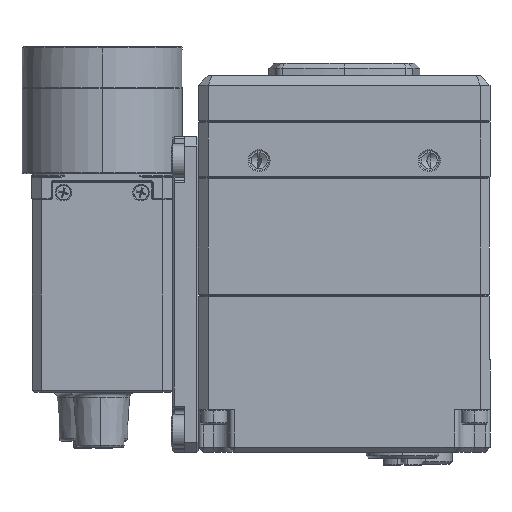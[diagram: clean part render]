
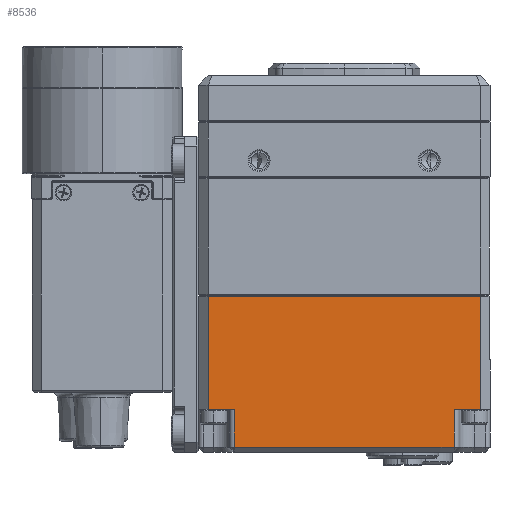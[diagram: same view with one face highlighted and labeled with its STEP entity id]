
A CAD part, left-side view. The second image highlights one B-rep face of the part: STEP entity #8536.
In plain terms, the highlighted planar face has unit normal (-1, 0, 0).
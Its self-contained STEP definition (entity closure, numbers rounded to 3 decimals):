
#163 = EDGE_CURVE ( 'NONE', #30377, #46560, #26223, .T. ) ;
#1780 = DIRECTION ( 'NONE',  ( 1., 0., 0. ) ) ;
#1967 = CARTESIAN_POINT ( 'NONE',  ( -30., -30., 32.1 ) ) ;
#3139 = ORIENTED_EDGE ( 'NONE', *, *, #163, .T. ) ;
#3210 = AXIS2_PLACEMENT_3D ( 'NONE', #57737, #1780, #47347 ) ;
#4185 = CARTESIAN_POINT ( 'NONE',  ( -30., 22.6, 32.3 ) ) ;
#4766 = VECTOR ( 'NONE', #37313, 1000. ) ;
#5443 = VECTOR ( 'NONE', #31259, 1000. ) ;
#7189 = ORIENTED_EDGE ( 'NONE', *, *, #21064, .F. ) ;
#8536 = ADVANCED_FACE ( 'NONE', ( #26576 ), #47027, .F. ) ;
#8731 = ORIENTED_EDGE ( 'NONE', *, *, #52812, .T. ) ;
#11115 = CARTESIAN_POINT ( 'NONE',  ( -30., -30., 8.8 ) ) ;
#11579 = VERTEX_POINT ( 'NONE', #40150 ) ;
#12400 = LINE ( 'NONE', #40999, #5443 ) ;
#13954 = ORIENTED_EDGE ( 'NONE', *, *, #62625, .T. ) ;
#15846 = EDGE_LOOP ( 'NONE', ( #13954, #8731, #57762, #7189, #37642, #3139, #64055, #57606 ) ) ;
#15864 = CARTESIAN_POINT ( 'NONE',  ( -30., 30., 8.8 ) ) ;
#21064 = EDGE_CURVE ( 'NONE', #25235, #40166, #26234, .T. ) ;
#21197 = CARTESIAN_POINT ( 'NONE',  ( -30., -22.6, 1. ) ) ;
#21395 = DIRECTION ( 'NONE',  ( 0., 1., 0. ) ) ;
#22008 = VERTEX_POINT ( 'NONE', #31607 ) ;
#22397 = VECTOR ( 'NONE', #30887, 1000. ) ;
#24621 = DIRECTION ( 'NONE',  ( 0., 0., -1. ) ) ;
#25235 = VERTEX_POINT ( 'NONE', #27109 ) ;
#26223 = LINE ( 'NONE', #21197, #49569 ) ;
#26234 = LINE ( 'NONE', #15864, #36561 ) ;
#26576 = FACE_OUTER_BOUND ( 'NONE', #15846, .T. ) ;
#27109 = CARTESIAN_POINT ( 'NONE',  ( -30., 22.6, 8.8 ) ) ;
#30377 = VERTEX_POINT ( 'NONE', #36261 ) ;
#30887 = DIRECTION ( 'NONE',  ( 0., 1., 0. ) ) ;
#31259 = DIRECTION ( 'NONE',  ( 0., 0., -1. ) ) ;
#31607 = CARTESIAN_POINT ( 'NONE',  ( -30., 28., 32.1 ) ) ;
#32206 = LINE ( 'NONE', #11115, #22397 ) ;
#33991 = CARTESIAN_POINT ( 'NONE',  ( -30., -28., 32.1 ) ) ;
#34694 = VERTEX_POINT ( 'NONE', #33991 ) ;
#36261 = CARTESIAN_POINT ( 'NONE',  ( -30., 22.6, 1. ) ) ;
#36561 = VECTOR ( 'NONE', #41660, 1000. ) ;
#36632 = DIRECTION ( 'NONE',  ( 0., -1., 0. ) ) ;
#37313 = DIRECTION ( 'NONE',  ( 0., 0., 1. ) ) ;
#37642 = ORIENTED_EDGE ( 'NONE', *, *, #62505, .T. ) ;
#37646 = LINE ( 'NONE', #63419, #4766 ) ;
#39081 = DIRECTION ( 'NONE',  ( 0., 0., 1. ) ) ;
#40150 = CARTESIAN_POINT ( 'NONE',  ( -30., -28., 8.8 ) ) ;
#40166 = VERTEX_POINT ( 'NONE', #64616 ) ;
#40999 = CARTESIAN_POINT ( 'NONE',  ( -30., 28., 32.3 ) ) ;
#41660 = DIRECTION ( 'NONE',  ( 0., 1., 0. ) ) ;
#42573 = VECTOR ( 'NONE', #21395, 1000. ) ;
#44085 = LINE ( 'NONE', #64534, #49761 ) ;
#46073 = VERTEX_POINT ( 'NONE', #62535 ) ;
#46560 = VERTEX_POINT ( 'NONE', #62128 ) ;
#47027 = PLANE ( 'NONE',  #3210 ) ;
#47347 = DIRECTION ( 'NONE',  ( 0., 0., -1. ) ) ;
#47551 = VECTOR ( 'NONE', #24621, 1000. ) ;
#48132 = EDGE_CURVE ( 'NONE', #46560, #46073, #44085, .T. ) ;
#49569 = VECTOR ( 'NONE', #36632, 1000. ) ;
#49761 = VECTOR ( 'NONE', #39081, 1000. ) ;
#52812 = EDGE_CURVE ( 'NONE', #34694, #22008, #53540, .T. ) ;
#53540 = LINE ( 'NONE', #1967, #42573 ) ;
#53710 = EDGE_CURVE ( 'NONE', #11579, #46073, #32206, .T. ) ;
#55114 = LINE ( 'NONE', #4185, #47551 ) ;
#57478 = EDGE_CURVE ( 'NONE', #22008, #40166, #12400, .T. ) ;
#57606 = ORIENTED_EDGE ( 'NONE', *, *, #53710, .F. ) ;
#57737 = CARTESIAN_POINT ( 'NONE',  ( -30., -30., 32.3 ) ) ;
#57762 = ORIENTED_EDGE ( 'NONE', *, *, #57478, .T. ) ;
#62128 = CARTESIAN_POINT ( 'NONE',  ( -30., -22.6, 1. ) ) ;
#62505 = EDGE_CURVE ( 'NONE', #25235, #30377, #55114, .T. ) ;
#62535 = CARTESIAN_POINT ( 'NONE',  ( -30., -22.6, 8.8 ) ) ;
#62625 = EDGE_CURVE ( 'NONE', #11579, #34694, #37646, .T. ) ;
#63419 = CARTESIAN_POINT ( 'NONE',  ( -30., -28., 32.3 ) ) ;
#64055 = ORIENTED_EDGE ( 'NONE', *, *, #48132, .T. ) ;
#64534 = CARTESIAN_POINT ( 'NONE',  ( -30., -22.6, 32.3 ) ) ;
#64616 = CARTESIAN_POINT ( 'NONE',  ( -30., 28., 8.8 ) ) ;
